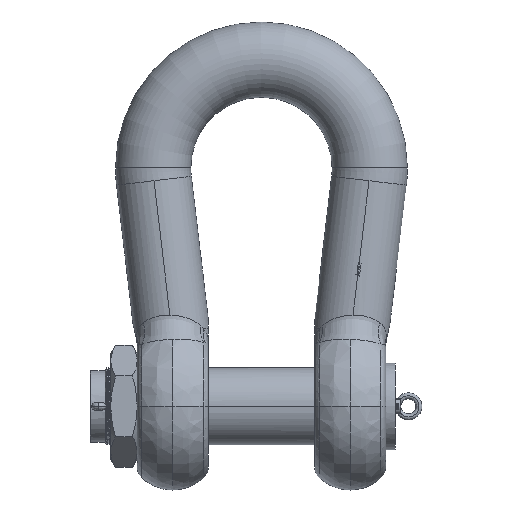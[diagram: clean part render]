
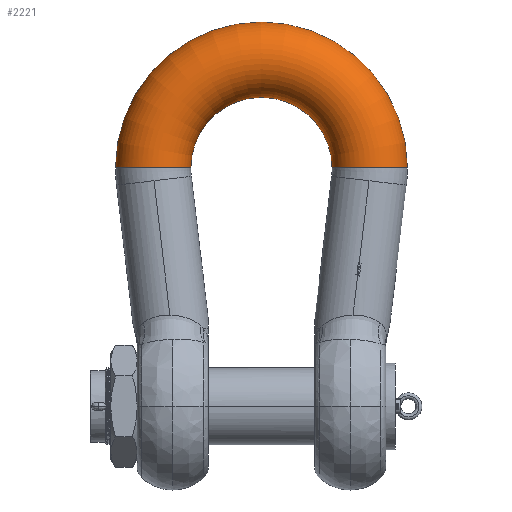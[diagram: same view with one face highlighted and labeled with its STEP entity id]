
A CAD part, front view. The second image highlights one B-rep face of the part: STEP entity #2221.
In plain terms, the highlighted toroidal (fillet/blend) face has major radius 287.5 mm and minor radius 99.995 mm.
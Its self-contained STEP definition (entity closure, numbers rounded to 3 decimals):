
#2221=ADVANCED_FACE('',(#5284),#5285,.T.);
#5284=FACE_OUTER_BOUND('',#11626,.T.);
#5285=TOROIDAL_SURFACE('',#11627,287.5,99.995);
#11626=EDGE_LOOP('',(#36651,#36652,#36653,#36654));
#11627=AXIS2_PLACEMENT_3D('',#36655,#36656,#36657);
#36651=ORIENTED_EDGE('',*,*,#49235,.T.);
#36652=ORIENTED_EDGE('',*,*,#49236,.F.);
#36653=ORIENTED_EDGE('',*,*,#49237,.T.);
#36654=ORIENTED_EDGE('',*,*,#49110,.F.);
#36655=CARTESIAN_POINT('',(0.0,0.0,633.0));
#36656=DIRECTION('',(0.0,-1.0,0.0));
#36657=DIRECTION('',(1.0,0.0,0.0));
#49110=EDGE_CURVE('',#57101,#57100,#57103,.F.);
#49235=EDGE_CURVE('',#57101,#57265,#57266,.F.);
#49236=EDGE_CURVE('',#57267,#57265,#57268,.T.);
#49237=EDGE_CURVE('',#57267,#57100,#57269,.T.);
#57100=VERTEX_POINT('',#73195);
#57101=VERTEX_POINT('',#73196);
#57103=CIRCLE('',#73198,99.995);
#57265=VERTEX_POINT('',#73536);
#57266=CIRCLE('',#73537,187.505);
#57267=VERTEX_POINT('',#73538);
#57268=B_SPLINE_CURVE_WITH_KNOTS('',5,(#73539,#73540,#73541,#73542,#73543,#73544,#73545,#73546,#73547,#73548,#73549,#73550,#73551,#73552,#73553,#73554,#73555,#73556,#73557,#73558,#73559,#73560,#73561,#73562),.UNSPECIFIED.,.F.,.F.,(6,3,3,3,3,3,3,6),(0.,65.816,131.631,197.447,263.263,329.079,394.894,444.262),.UNSPECIFIED.);
#57269=CIRCLE('',#73563,387.495);
#73195=CARTESIAN_POINT('',(-387.495,0.0,633.0));
#73196=CARTESIAN_POINT('',(-187.505,0.,633.0));
#73198=AXIS2_PLACEMENT_3D('',#108224,#108225,#108226);
#73536=CARTESIAN_POINT('',(187.505,0.,633.0));
#73537=AXIS2_PLACEMENT_3D('',#108231,#108232,#108233);
#73538=CARTESIAN_POINT('',(387.495,0.0,633.0));
#73539=CARTESIAN_POINT('',(387.495,0.,633.0));
#73540=CARTESIAN_POINT('',(387.495,-9.308,633.0));
#73541=CARTESIAN_POINT('',(386.412,-18.615,633.0));
#73542=CARTESIAN_POINT('',(384.246,-27.756,633.0));
#73543=CARTESIAN_POINT('',(377.827,-45.363,633.0));
#73544=CARTESIAN_POINT('',(367.537,-61.027,633.0));
#73545=CARTESIAN_POINT('',(361.499,-68.222,633.0));
#73546=CARTESIAN_POINT('',(347.861,-81.076,633.0));
#73547=CARTESIAN_POINT('',(331.635,-90.455,633.0));
#73548=CARTESIAN_POINT('',(323.01,-94.176,633.0));
#73549=CARTESIAN_POINT('',(305.054,-99.542,633.0));
#73550=CARTESIAN_POINT('',(286.345,-100.642,633.0));
#73551=CARTESIAN_POINT('',(276.968,-100.096,633.0));
#73552=CARTESIAN_POINT('',(258.513,-96.832,633.0));
#73553=CARTESIAN_POINT('',(241.301,-89.419,633.0));
#73554=CARTESIAN_POINT('',(233.166,-84.722,633.0));
#73555=CARTESIAN_POINT('',(218.138,-73.524,633.0));
#73556=CARTESIAN_POINT('',(206.084,-59.174,633.0));
#73557=CARTESIAN_POINT('',(200.922,-51.326,633.0));
#73558=CARTESIAN_POINT('',(193.569,-36.668,633.0));
#73559=CARTESIAN_POINT('',(189.333,-20.874,633.0));
#73560=CARTESIAN_POINT('',(188.114,-13.963,633.0));
#73561=CARTESIAN_POINT('',(187.505,-6.982,633.0));
#73562=CARTESIAN_POINT('',(187.505,0.,633.0));
#73563=AXIS2_PLACEMENT_3D('',#108234,#108235,#108236);
#108224=CARTESIAN_POINT('',(-287.5,0.0,633.0));
#108225=DIRECTION('',(0.,0.0,1.0));
#108226=DIRECTION('',(-1.0,0.0,0.));
#108231=CARTESIAN_POINT('',(0.0,0.,633.0));
#108232=DIRECTION('',(0.0,-1.0,0.0));
#108233=DIRECTION('',(-1.0,0.0,0.0));
#108234=CARTESIAN_POINT('',(0.0,0.,633.0));
#108235=DIRECTION('',(0.0,-1.0,0.0));
#108236=DIRECTION('',(-1.0,0.0,0.0));
